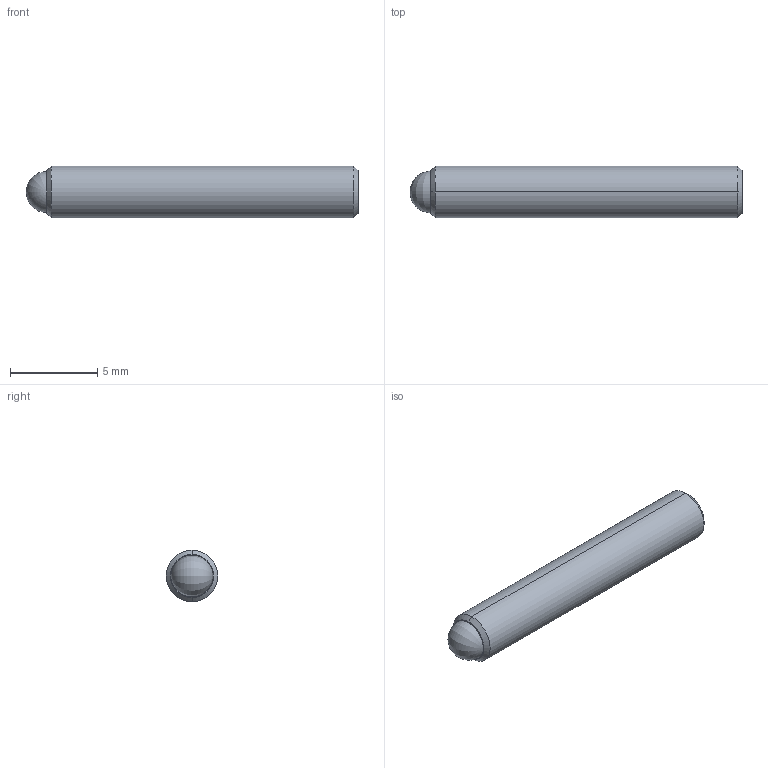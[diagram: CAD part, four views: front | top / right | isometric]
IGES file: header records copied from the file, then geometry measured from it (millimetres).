
Start section: SolidWorks IGES file using analytic representation for surfaces
Global section: file name: C:\Users\workpc\Desktop\KMA Solidworks\TS6-80 Series\TS6-80 SLDPRT\TS6-80-750.IGS; native system: SolidWorks 2013; preprocessor: SolidWorks 2013; author: workpc; date: 140728.153131; units: inch
Bounding box: 19.05 x 2.97 x 2.97 mm (x, y, z)
Surface area: 220.1 mm2 (no closed solid volume)
Topology: 0 solids, 0 shells, 20 faces, 204 edges, 200 vertices
Faces by surface type: revolution 10, bspline 10
